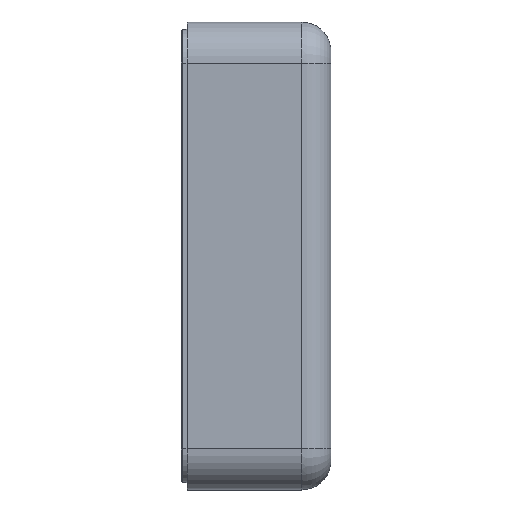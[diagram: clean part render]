
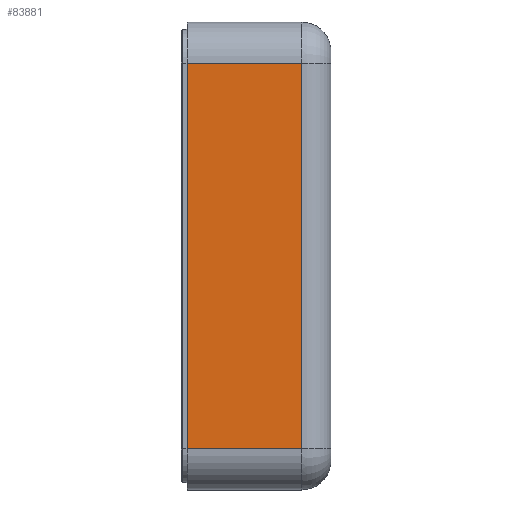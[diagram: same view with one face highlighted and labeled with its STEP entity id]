
A CAD part, left-side view. The second image highlights one B-rep face of the part: STEP entity #83881.
In plain terms, the highlighted planar face has unit normal (-1, 0, 0).
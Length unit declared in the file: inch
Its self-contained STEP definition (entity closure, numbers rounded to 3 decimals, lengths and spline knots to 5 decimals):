
#414 = LINE ( 'NONE', #62105, #60843 ) ;
#2150 = ORIENTED_EDGE ( 'NONE', *, *, #40533, .T. ) ;
#5196 = CARTESIAN_POINT ( 'NONE',  ( -18.99346, -0.25, -6.56714 ) ) ;
#5688 = LINE ( 'NONE', #73384, #66067 ) ;
#12908 = DIRECTION ( 'NONE',  ( 0., 1., 0. ) ) ;
#16716 = DIRECTION ( 'NONE',  ( 0., 1., 0. ) ) ;
#21235 = EDGE_CURVE ( 'NONE', #90265, #35743, #414, .T. ) ;
#21639 = ORIENTED_EDGE ( 'NONE', *, *, #83086, .F. ) ;
#22084 = CARTESIAN_POINT ( 'NONE',  ( -18.99346, 0., -6.56714 ) ) ;
#25245 = DIRECTION ( 'NONE',  ( 0., 0., 1. ) ) ;
#27141 = ORIENTED_EDGE ( 'NONE', *, *, #47274, .T. ) ;
#28092 = LINE ( 'NONE', #70519, #63660 ) ;
#29962 = VECTOR ( 'NONE', #97783, 39.37008 ) ;
#35530 = DIRECTION ( 'NONE',  ( 0., 0., 1. ) ) ;
#35743 = VERTEX_POINT ( 'NONE', #22084 ) ;
#37449 = FACE_OUTER_BOUND ( 'NONE', #78758, .T. ) ;
#39648 = VERTEX_POINT ( 'NONE', #77246 ) ;
#40533 = EDGE_CURVE ( 'NONE', #39648, #53658, #5688, .T. ) ;
#45065 = CARTESIAN_POINT ( 'NONE',  ( -18.99346, -3.9, 6.56714 ) ) ;
#47274 = EDGE_CURVE ( 'NONE', #90265, #39648, #47755, .T. ) ;
#47755 = LINE ( 'NONE', #45065, #29962 ) ;
#47756 = ORIENTED_EDGE ( 'NONE', *, *, #21235, .F. ) ;
#53658 = VERTEX_POINT ( 'NONE', #79522 ) ;
#56105 = CARTESIAN_POINT ( 'NONE',  ( -18.99346, -3.9, -6.56714 ) ) ;
#60843 = VECTOR ( 'NONE', #16716, 39.37008 ) ;
#62105 = CARTESIAN_POINT ( 'NONE',  ( -18.99346, -0.25, -6.56714 ) ) ;
#63660 = VECTOR ( 'NONE', #25245, 39.37008 ) ;
#66067 = VECTOR ( 'NONE', #12908, 39.37008 ) ;
#67905 = AXIS2_PLACEMENT_3D ( 'NONE', #5196, #80815, #35530 ) ;
#70519 = CARTESIAN_POINT ( 'NONE',  ( -18.99346, 0., -6.56714 ) ) ;
#73239 = PLANE ( 'NONE',  #67905 ) ;
#73384 = CARTESIAN_POINT ( 'NONE',  ( -18.99346, -0.25, 6.56714 ) ) ;
#77246 = CARTESIAN_POINT ( 'NONE',  ( -18.99346, -3.9, 6.56714 ) ) ;
#78758 = EDGE_LOOP ( 'NONE', ( #47756, #27141, #2150, #21639 ) ) ;
#79522 = CARTESIAN_POINT ( 'NONE',  ( -18.99346, 0., 6.56714 ) ) ;
#80815 = DIRECTION ( 'NONE',  ( -1., 0., 0. ) ) ;
#83086 = EDGE_CURVE ( 'NONE', #35743, #53658, #28092, .T. ) ;
#83881 = ADVANCED_FACE ( 'NONE', ( #37449 ), #73239, .T. ) ;
#90265 = VERTEX_POINT ( 'NONE', #56105 ) ;
#97783 = DIRECTION ( 'NONE',  ( 0., 0., 1. ) ) ;
